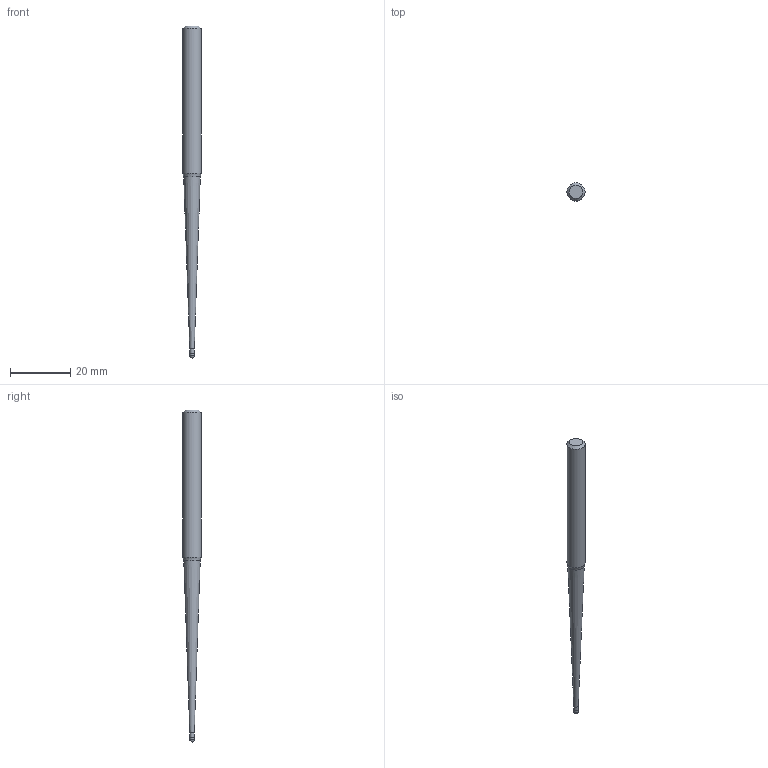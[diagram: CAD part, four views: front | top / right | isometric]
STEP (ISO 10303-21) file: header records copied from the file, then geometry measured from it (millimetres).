
FILE_DESCRIPTION((''),'2;1');
FILE_NAME('C:\Users\nsx150\AppData\Local\Temp\Mastercam 2021\SNAKH10GOD\TEMP.step','2021-10-21T13:33:00',(''),(''),'STEP Write','Mastercam 2021 ... CNC Software, Inc.','');
FILE_SCHEMA(('AUTOMOTIVE_DESIGN'));
Length unit declared in the file: millimetre
Products named in the file (1): None
Bounding box: 6 x 6 x 110 mm (x, y, z)
Volume: 2012.6 mm3; surface area: 1602.1 mm2
Topology: 2 solids, 2 shells, 10 faces, 16 edges, 9 vertices
Faces by surface type: plane 3, cylinder 3, cone 3, sphere 1
Full cylindrical faces by diameter (mm): 1.485 x1, 1.5 x1, 6 x1
Entity records: 232 total; most frequent: DIRECTION 40, CARTESIAN_POINT 28, AXIS2_PLACEMENT_3D 20, ORIENTED_EDGE 16, EDGE_LOOP 16, STYLED_ITEM 13, ADVANCED_FACE 10, FACE_BOUND 9
